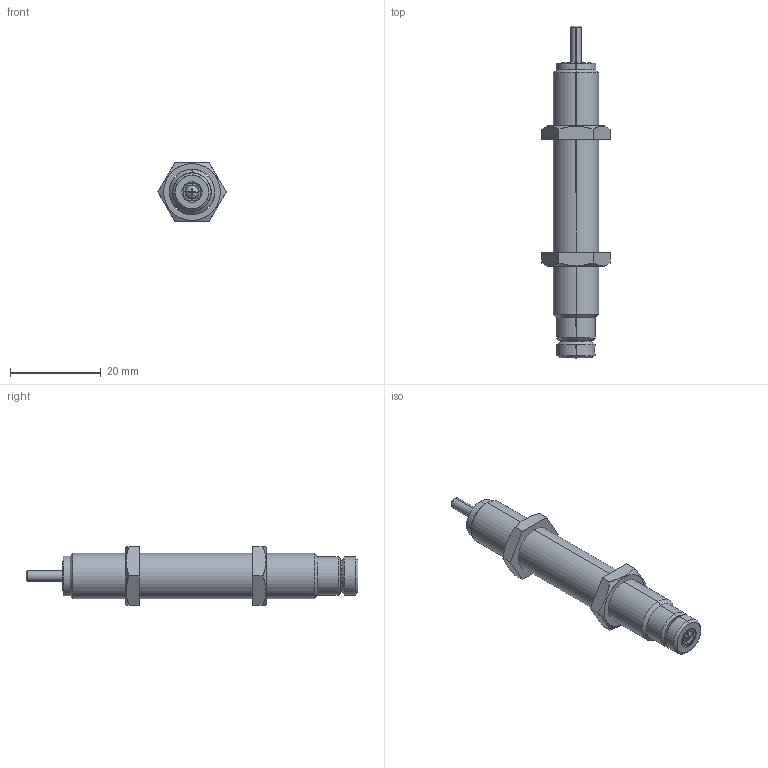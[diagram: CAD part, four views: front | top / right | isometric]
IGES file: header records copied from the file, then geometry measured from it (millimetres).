
Start section: SolidWorks IGES file using analytic representation for surfaces
Bounding box: 15.01 x 73.2 x 13 mm (x, y, z)
Surface area: 3071 mm2 (no closed solid volume)
Topology: 0 solids, 0 shells, 92 faces, 1186 edges, 1186 vertices
Faces by surface type: bspline 48, revolution 44
